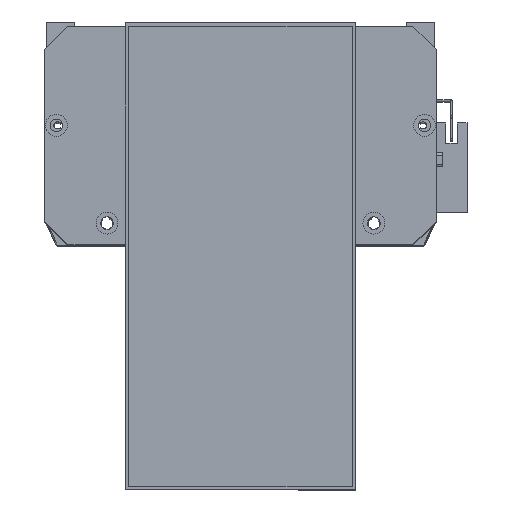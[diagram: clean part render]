
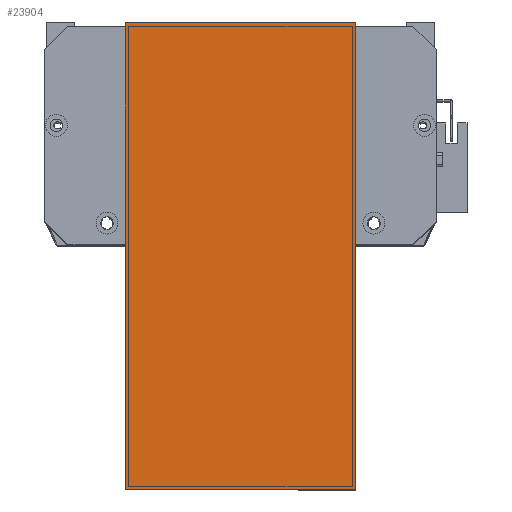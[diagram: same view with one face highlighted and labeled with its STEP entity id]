
A CAD part, top view. The second image highlights one B-rep face of the part: STEP entity #23904.
In plain terms, the highlighted planar face has unit normal (0, 0, 1) as drawn and (0, 0, -1) by its records, which use the part's own axes.
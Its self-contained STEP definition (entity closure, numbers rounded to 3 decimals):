
#518 = LINE ( 'NONE', #24623, #17846 ) ;
#984 = EDGE_CURVE ( 'NONE', #24509, #15570, #518, .T. ) ;
#2431 = DIRECTION ( 'NONE',  ( 0., -1., 0. ) ) ;
#2932 = DIRECTION ( 'NONE',  ( 0., 0., -1. ) ) ;
#3638 = CARTESIAN_POINT ( 'NONE',  ( 0., 119.5, 0. ) ) ;
#3763 = EDGE_LOOP ( 'NONE', ( #25323, #15585, #3900, #15885 ) ) ;
#3900 = ORIENTED_EDGE ( 'NONE', *, *, #25622, .T. ) ;
#4052 = LINE ( 'NONE', #23725, #15334 ) ;
#4839 = CARTESIAN_POINT ( 'NONE',  ( -12., 119.5, 0. ) ) ;
#7025 = CARTESIAN_POINT ( 'NONE',  ( 0., 19.5, 0. ) ) ;
#8305 = AXIS2_PLACEMENT_3D ( 'NONE', #18830, #2932, #23382 ) ;
#10071 = LINE ( 'NONE', #4839, #20672 ) ;
#12455 = CARTESIAN_POINT ( 'NONE',  ( 203., 19.5, 0. ) ) ;
#13262 = CARTESIAN_POINT ( 'NONE',  ( 203., 119.5, 0. ) ) ;
#13296 = LINE ( 'NONE', #15963, #19354 ) ;
#15334 = VECTOR ( 'NONE', #26023, 1000. ) ;
#15570 = VERTEX_POINT ( 'NONE', #13262 ) ;
#15585 = ORIENTED_EDGE ( 'NONE', *, *, #16636, .F. ) ;
#15885 = ORIENTED_EDGE ( 'NONE', *, *, #984, .F. ) ;
#15963 = CARTESIAN_POINT ( 'NONE',  ( 0., 0., 0. ) ) ;
#16636 = EDGE_CURVE ( 'NONE', #27122, #18750, #13296, .T. ) ;
#17846 = VECTOR ( 'NONE', #28956, 1000. ) ;
#18376 = EDGE_CURVE ( 'NONE', #18750, #24509, #4052, .T. ) ;
#18750 = VERTEX_POINT ( 'NONE', #7025 ) ;
#18830 = CARTESIAN_POINT ( 'NONE',  ( 0., 0., 0. ) ) ;
#19354 = VECTOR ( 'NONE', #2431, 1000. ) ;
#20635 = DIRECTION ( 'NONE',  ( 1., 0., 0. ) ) ;
#20672 = VECTOR ( 'NONE', #20635, 1000. ) ;
#21106 = PLANE ( 'NONE',  #8305 ) ;
#23382 = DIRECTION ( 'NONE',  ( -1., 0., 0. ) ) ;
#23725 = CARTESIAN_POINT ( 'NONE',  ( -12., 19.5, 0. ) ) ;
#23904 = ADVANCED_FACE ( 'NONE', ( #24680 ), #21106, .T. ) ;
#24509 = VERTEX_POINT ( 'NONE', #12455 ) ;
#24623 = CARTESIAN_POINT ( 'NONE',  ( 203., 0., 0. ) ) ;
#24680 = FACE_OUTER_BOUND ( 'NONE', #3763, .T. ) ;
#25323 = ORIENTED_EDGE ( 'NONE', *, *, #18376, .F. ) ;
#25622 = EDGE_CURVE ( 'NONE', #27122, #15570, #10071, .T. ) ;
#26023 = DIRECTION ( 'NONE',  ( 1., 0., 0. ) ) ;
#27122 = VERTEX_POINT ( 'NONE', #3638 ) ;
#28956 = DIRECTION ( 'NONE',  ( 0., 1., 0. ) ) ;
